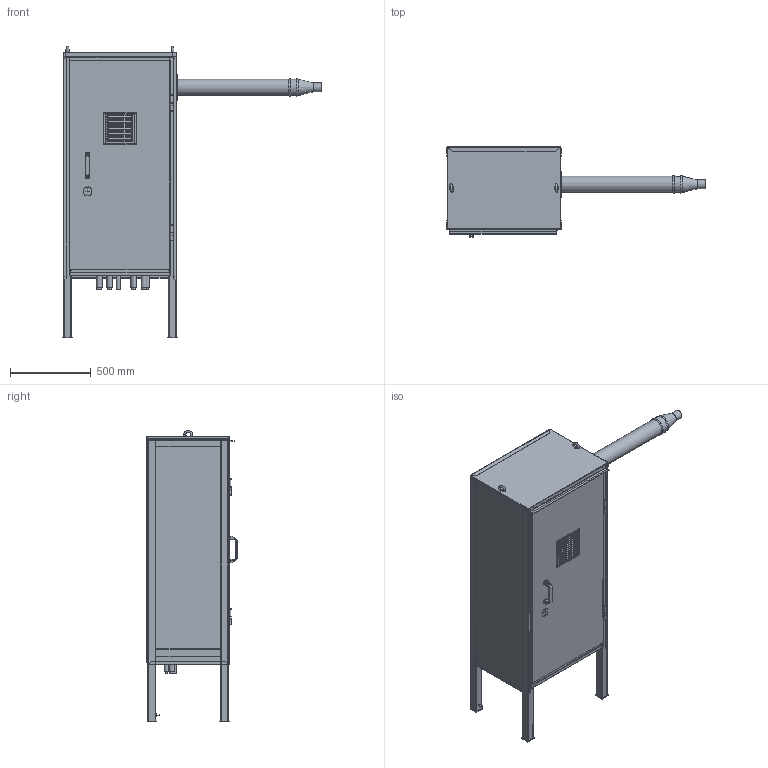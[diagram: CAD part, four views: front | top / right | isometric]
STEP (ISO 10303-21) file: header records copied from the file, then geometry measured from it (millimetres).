
FILE_DESCRIPTION(('STEP AP214'), '1');
FILE_NAME('VS10-50 ECO 10-24F - 挓鎀霠罻 3D 斁麧錪', '', ('UNSPECIFIED'), ('UNSPECIFIED'), 'C3D Converter', 'C3D Toolkit', '');
FILE_SCHEMA(('AUTOMOTIVE_DESIGN { 1 0 10303 214 3 1 1}'));
Length unit declared in the file: millimetre
Products named in the file (1): VS10-50
Bounding box: 1600.88 x 559.41 x 1805.87 mm (x, y, z)
Volume: 19642160.5 mm3; surface area: 12809941.3 mm2
Topology: 10 solids, 27 shells, 1366 faces, 3671 edges, 2277 vertices
Faces by surface type: plane 882, cylinder 324, torus 77, sphere 52, cone 21, bspline 10
Full cylindrical faces by diameter (mm): 4 x4, 5 x2, 6.2 x2, 8 x3, 10 x1, 10.106 x2, 11 x2, 12 x3, 12.5 x4, 13 x4, 16.3 x2, 18 x3, 20.955 x2, 21.041 x2, 21.2 x1, 22 x2, 24 x2, 26 x2, 26.441 x4, 28 x2, 34 x4, 36 x4, 54 x1, 55 x1, 99 x3, 100 x4
Entity records: 60896 total; most frequent: CARTESIAN_POINT 16244, DIRECTION 6890, ORIENTED_EDGE 6862, EDGE_CURVE 3515, AXIS2_PLACEMENT_3D 2352, VERTEX_POINT 2275, LINE 2186, VECTOR 2186
